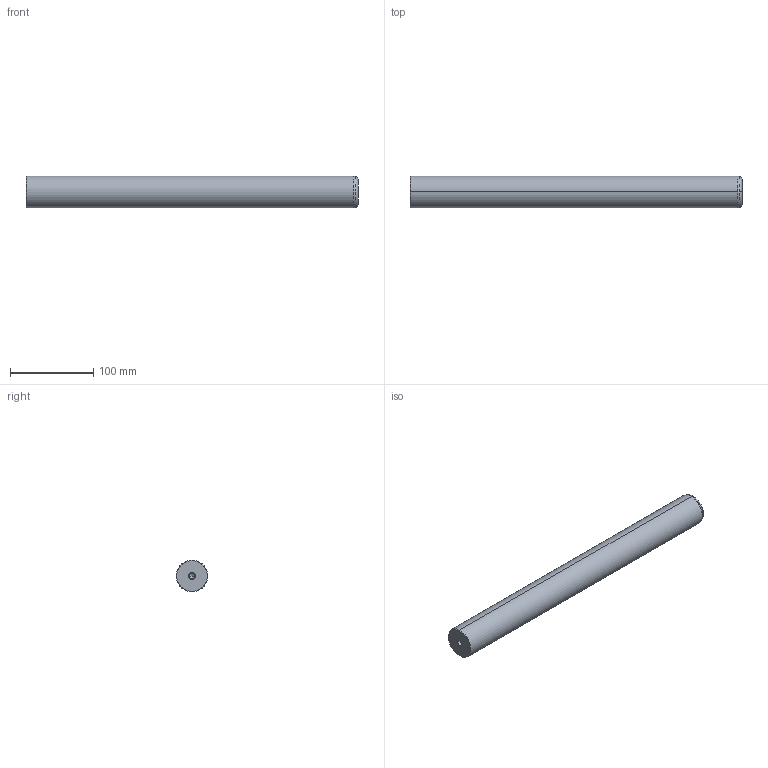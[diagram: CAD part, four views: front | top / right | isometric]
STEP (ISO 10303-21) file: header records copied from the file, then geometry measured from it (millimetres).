
FILE_DESCRIPTION(('CATIA V5 STEP Exchange'),'2;1');
FILE_NAME('C:\Users\Utente\Desktop\IO LAVORO\3D X SITO CF\X SITO\720\720-38x400.stp','2021-01-01T12:00:33+00:00',('none'),('none'),'CATIA Version 5 Release 20 GA (IN-10)','CATIA V5 STEP AP203','none');
FILE_SCHEMA(('CONFIG_CONTROL_DESIGN'));
Length unit declared in the file: millimetre
Products named in the file (1): 720-38x400
Bounding box: 400 x 38 x 38 mm (x, y, z)
Volume: 451306.4 mm3; surface area: 50706.9 mm2
Topology: 1 solids, 1 shells, 22 faces, 62 edges, 40 vertices
Faces by surface type: cone 12, cylinder 6, plane 2, torus 2
Entity records: 806 total; most frequent: CARTESIAN_POINT 229, ORIENTED_EDGE 116, DIRECTION 93, EDGE_CURVE 58, AXIS2_PLACEMENT_3D 54, VERTEX_POINT 40, CIRCLE 31, EDGE_LOOP 24
